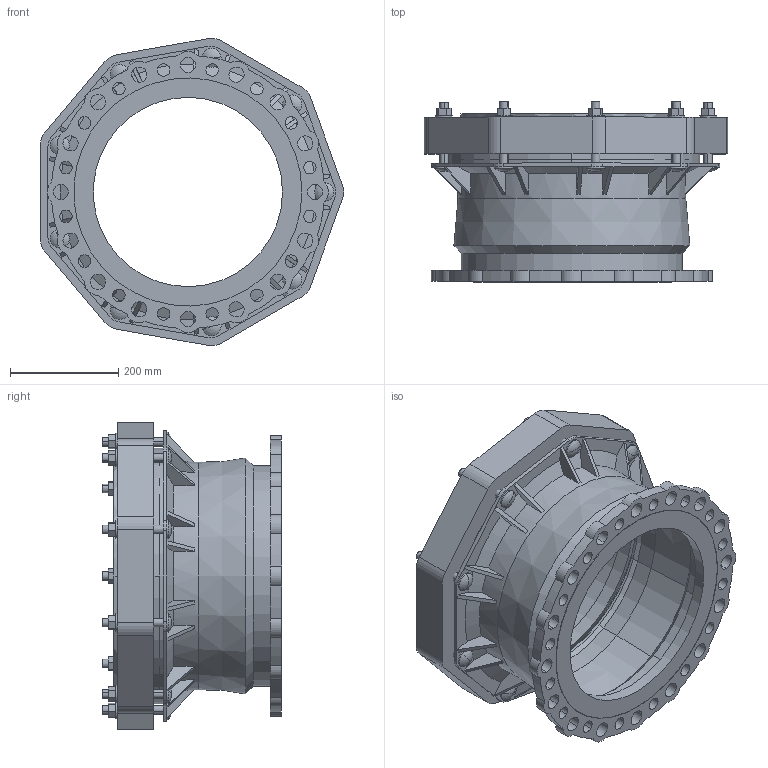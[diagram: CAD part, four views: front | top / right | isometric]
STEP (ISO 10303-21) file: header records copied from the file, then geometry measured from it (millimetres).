
FILE_DESCRIPTION((''),'2;1');
FILE_NAME('BIM_13199_13_ASM','2020-04-01T',('MReader'),(''),'CREO PARAMETRIC BY PTC INC, 2016130','CREO PARAMETRIC BY PTC INC, 2016130','');
FILE_SCHEMA(('CONFIG_CONTROL_DESIGN'));
Length unit declared in the file: millimetre
Products named in the file (5): NEW_BIM_13078; BIM_13074; BIM_CDX_BOLT_120; BIM_13129_11; BIM_13199_13_ASM
Assembly tree (12 placements, depth 2):
  BIM_13199_13_ASM
    NEW_BIM_13078
    BIM_13074
    BIM_CDX_BOLT_120  x9
    BIM_13129_11
Bounding box: 561.02 x 332.5 x 568.56 mm (x, y, z)
Volume: 13147962.5 mm3; surface area: 1772951.7 mm2
Topology: 12 solids, 12 shells, 523 faces, 1396 edges, 911 vertices
Faces by surface type: plane 245, cylinder 202, cone 58, sphere 18
Entity records: 15179 total; most frequent: CARTESIAN_POINT 2779, DIRECTION 2604, ORIENTED_EDGE 2532, EDGE_CURVE 1266, AXIS2_PLACEMENT_3D 916, VERTEX_POINT 839, VECTOR 772, LINE 772
